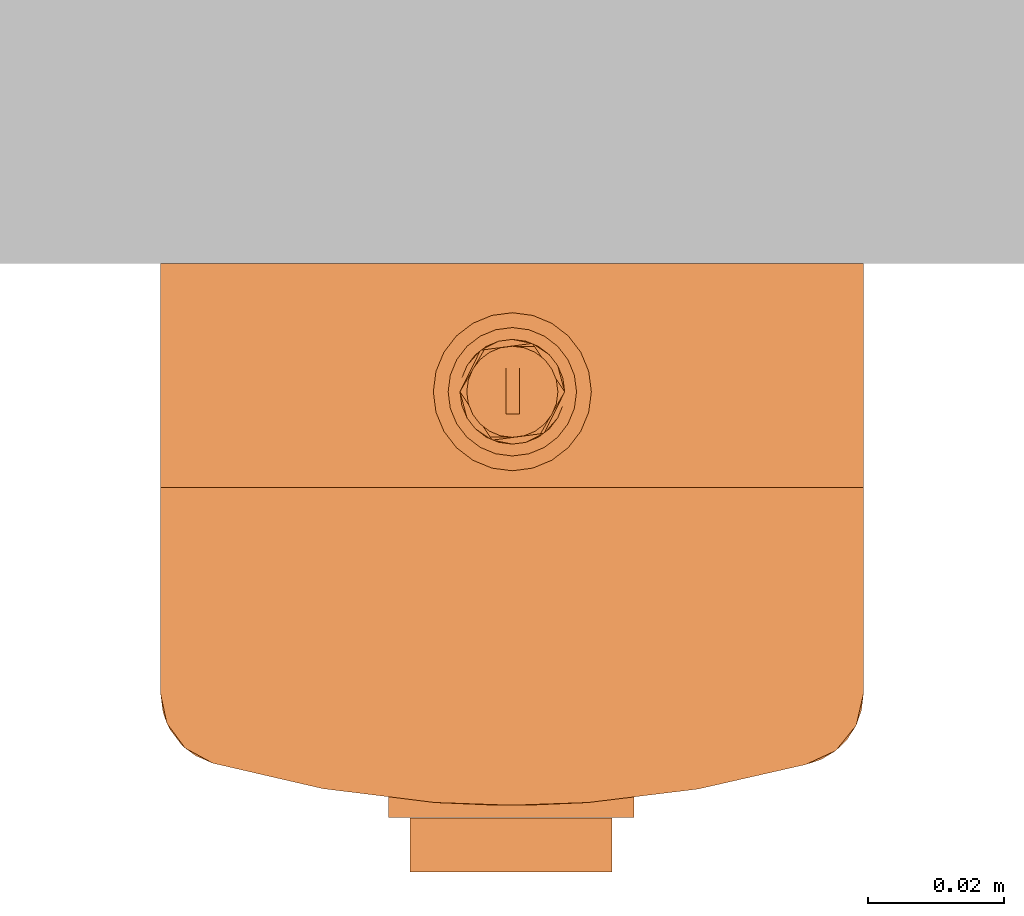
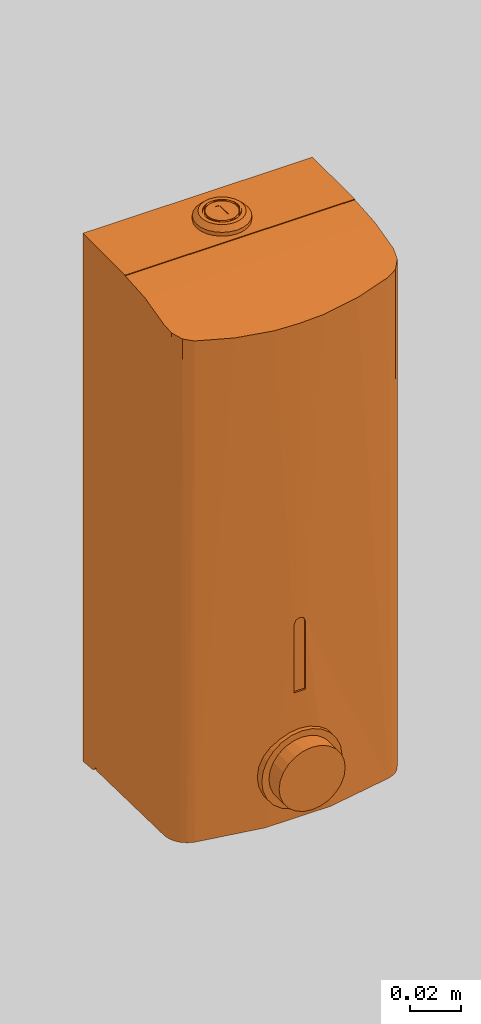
# One storey, part 2 of 2: 1 proxy.
"""IFC2X3 building model written with IfcOpenShell, lengths in millimetres."""

from ifc_helpers import new_model, entity, si_unit, converted_unit, frame, origin, place, context, project, spatial, face_set, surface_model, source, transform, mapped, element, save


model = new_model("IFC2X3")

# Units and contexts
model_context = context("Model", 3, precision=1e-06, world=origin())
plan_context = context("Plan", 3, precision=1e-06, world=origin())
ifc_project = project(units=[si_unit("LENGTHUNIT", "METRE", prefix="MILLI"), si_unit("AREAUNIT", "SQUARE_METRE", prefix="MILLI"), si_unit("VOLUMEUNIT", "CUBIC_METRE", prefix="MILLI"), converted_unit("PLANEANGLEUNIT", "DEGREE", entity("IfcRatioMeasure", 0.01745329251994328), si_unit("PLANEANGLEUNIT", "RADIAN"), dimensions=[0, 0, 0, 0, 0, 0, 0]), si_unit("TIMEUNIT", "SECOND")], contexts=[model_context, plan_context])

# Site, building, storey
site_placement = place(None, origin())
site = spatial("IfcSite", under=ifc_project, at=site_placement, Name="Default", CompositionType="ELEMENT")
building_placement = place(site_placement, origin())
building = spatial("IfcBuilding", under=site, at=building_placement, CompositionType="ELEMENT")
storey_placement = place(building_placement, origin())
storey = spatial("IfcBuildingStorey", under=building, at=storey_placement, Name="Level 1", CompositionType="ELEMENT", Elevation=0.0)

# Proxy
shared_shape = source(origin(), model_context, "Body", "SurfaceModel", [
    surface_model("IfcFaceBasedSurfaceModel", [(56.19353422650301, 54.32887367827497, 8.678371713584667), (56.09341664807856, 55.08934218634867, 8.678371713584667), (55.79988676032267, 55.79798602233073, 8.678371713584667), (55.33294814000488, 56.40651227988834, 8.678371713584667), (54.72442188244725, 56.87345090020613, 8.678371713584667), (54.01577804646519, 57.166980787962, 8.678371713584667), (53.25530953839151, 57.26709836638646, 8.678371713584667), (52.49484103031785, 57.166980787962, 8.678371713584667), (51.78619719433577, 56.87345090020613, 8.678371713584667), (51.17767093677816, 56.4065122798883, 8.678371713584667), (50.71073231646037, 55.7979860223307, 8.678371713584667), (50.4172024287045, 55.08934218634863, 8.678371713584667), (50.31708485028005, 54.32887367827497, 8.678371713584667), (50.4172024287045, 53.56840517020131, 8.678371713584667), (50.71073231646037, 52.85976133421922, 8.678371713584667), (51.17767093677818, 52.2512350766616, 8.678371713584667), (51.78619719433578, 51.78429645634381, 8.678371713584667), (52.49484103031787, 51.49076656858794, 8.678371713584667), (53.25530953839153, 51.39064899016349, 8.678371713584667), (54.01577804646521, 51.49076656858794, 8.678371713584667), (54.72442188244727, 51.78429645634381, 8.678371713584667), (55.3329481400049, 52.2512350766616, 8.678371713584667), (55.79988676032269, 52.85976133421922, 8.678371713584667), (56.09341664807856, 53.56840517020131, 8.678371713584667), (56.19353422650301, 54.328873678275, 0.0), (56.09341664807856, 53.56840517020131, 0.0), (55.79988676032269, 52.85976133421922, 0.0), (55.3329481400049, 52.2512350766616, 0.0), (54.72442188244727, 51.78429645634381, 0.0), (54.01577804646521, 51.49076656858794, 0.0), (53.25530953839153, 51.39064899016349, 0.0), (52.49484103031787, 51.49076656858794, 0.0), (51.78619719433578, 51.78429645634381, 0.0), (51.17767093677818, 52.2512350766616, 0.0), (50.71073231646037, 52.85976133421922, 0.0), (50.4172024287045, 53.56840517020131, 0.0), (50.31708485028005, 54.32887367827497, 0.0), (50.4172024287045, 55.08934218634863, 0.0), (50.71073231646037, 55.7979860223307, 0.0), (51.17767093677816, 56.4065122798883, 0.0), (51.78619719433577, 56.87345090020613, 0.0), (52.49484103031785, 57.166980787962, 0.0), (53.25530953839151, 57.26709836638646, 0.0), (54.01577804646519, 57.166980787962, 0.0), (54.72442188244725, 56.87345090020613, 0.0), (55.33294814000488, 56.40651227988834, 0.0), (55.79988676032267, 55.79798602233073, 0.0), (56.09341664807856, 55.08934218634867, 0.0), (62.80703221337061, 18.91945362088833, 257.6965566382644), (62.48457126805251, 21.36878767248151, 257.6965566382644), (61.53916361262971, 23.65120365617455, 257.6965566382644), (60.03523721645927, 25.61115869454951, 257.6965566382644), (58.07528217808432, 27.11508509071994, 257.6965566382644), (55.79286619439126, 28.06049274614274, 257.6965566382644), (53.34353214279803, 28.38295369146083, 257.6965566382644), (50.89419809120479, 28.06049274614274, 257.6965566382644), (48.61178210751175, 27.11508509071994, 257.6965566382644), (46.65182706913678, 25.61115869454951, 257.6965566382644), (45.14790067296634, 23.65120365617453, 257.6965566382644), (44.20249301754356, 21.36878767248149, 257.6965566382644), (43.88003207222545, 18.91945362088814, 257.6965566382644), (44.2024930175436, 16.47011956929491, 257.6965566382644), (45.14790067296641, 14.18770358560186, 257.6965566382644), (46.65182706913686, 12.22774854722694, 257.6965566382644), (48.61178210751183, 10.72382215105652, 257.6965566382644), (50.89419809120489, 9.778414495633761, 257.6965566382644), (53.34353214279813, 9.45595355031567, 257.6965566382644), (55.79286619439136, 9.778414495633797, 257.6965566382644), (58.0752821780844, 10.72382215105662, 257.6965566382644), (60.03523721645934, 12.22774854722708, 257.6965566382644), (61.53916361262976, 14.18770358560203, 257.6965566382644), (62.48457126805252, 16.47011956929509, 257.6965566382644), (45.62644055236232, 18.91945362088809, 257.6965566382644), (45.88939407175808, 20.91678389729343, 257.6965566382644), (46.66033478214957, 22.77799941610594, 257.6965566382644), (47.88672434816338, 24.37626141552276, 257.6965566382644), (49.48498634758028, 25.60265098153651, 257.6965566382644), (51.34620186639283, 26.37359169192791, 257.6965566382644), (53.34353214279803, 26.63654521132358, 257.6965566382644), (55.34086241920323, 26.37359169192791, 257.6965566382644), (57.20207793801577, 25.60265098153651, 257.6965566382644), (58.80033993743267, 24.37626141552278, 257.6965566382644), (60.02672950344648, 22.77799941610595, 257.6965566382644), (60.79767021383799, 20.91678389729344, 257.6965566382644), (61.06062373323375, 18.91945362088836, 257.6965566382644), (60.79767021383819, 16.92212334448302, 257.6965566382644), (60.02672950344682, 15.06090782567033, 257.6965566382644), (58.80033993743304, 13.46264582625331, 257.6965566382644), (57.20207793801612, 12.2362562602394, 257.6965566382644), (55.34086241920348, 11.46531554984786, 257.6965566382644), (53.34353214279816, 11.20236203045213, 257.6965566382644), (51.34620186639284, 11.46531554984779, 257.6965566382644), (49.48498634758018, 12.23625626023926, 257.6965566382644), (47.88672434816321, 13.46264582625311, 257.6965566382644), (46.66033478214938, 15.06090782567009, 257.6965566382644), (45.88939407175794, 16.92212334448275, 257.6965566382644), (60.06062373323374, 18.91945362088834, 257.6965566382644), (59.8317443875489, 20.65796485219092, 257.6965566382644), (59.16070409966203, 22.27799941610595, 257.6965566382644), (58.09323315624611, 23.66915463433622, 257.6965566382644), (56.70207793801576, 24.73662557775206, 257.6965566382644), (55.08204337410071, 25.40766586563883, 257.6965566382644), (53.34353214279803, 25.63654521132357, 257.6965566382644), (51.60502091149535, 25.40766586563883, 257.6965566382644), (49.98498634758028, 24.73662557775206, 257.6965566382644), (48.59383112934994, 23.66915463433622, 257.6965566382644), (47.52636018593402, 22.27799941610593, 257.6965566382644), (46.85531989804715, 20.6579648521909, 257.6965566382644), (46.62644055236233, 18.91945362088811, 257.6965566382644), (46.85531989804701, 17.18094238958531, 257.6965566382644), (47.52636018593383, 15.56090782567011, 257.6965566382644), (48.59383112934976, 14.16975260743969, 257.6965566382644), (49.98498634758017, 13.10228166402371, 257.6965566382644), (51.60502091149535, 12.43124137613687, 257.6965566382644), (53.34353214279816, 12.20236203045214, 257.6965566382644), (55.08204337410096, 12.43124137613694, 257.6965566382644), (56.7020779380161, 13.10228166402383, 257.6965566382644), (58.09323315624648, 14.16975260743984, 257.6965566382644), (59.16070409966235, 15.56090782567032, 257.6965566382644), (59.83174438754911, 17.18094238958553, 257.6965566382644), (52.25919080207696, 15.16671562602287, 257.6965566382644), (54.24251838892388, 15.16671562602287, 257.6965566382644), (54.24251838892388, 22.16345461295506, 257.6965566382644), (52.25919080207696, 22.16345461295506, 257.6965566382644), (64.99295121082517, 18.91945362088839, 253.6965268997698), (64.59600688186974, 21.93454514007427, 253.6965268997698), (63.4322249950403, 24.74416315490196, 253.6965268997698), (61.58091536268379, 27.15683684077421, 253.6965268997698), (59.16824167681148, 29.00814647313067, 253.6965268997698), (56.35862366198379, 30.17192835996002, 253.6965268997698), (53.34353214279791, 30.5688726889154, 253.6965268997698), (50.32844062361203, 30.17192835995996, 253.6965268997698), (47.51882260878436, 29.00814647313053, 253.6965268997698), (45.10614892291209, 27.15683684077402, 253.6965268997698), (43.25483929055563, 24.74416315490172, 253.6965268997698), (42.09105740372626, 21.93454514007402, 253.6965268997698), (41.6941130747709, 18.91945362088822, 253.6965268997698), (42.09105740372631, 15.90436210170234, 253.6965268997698), (43.25483929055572, 13.09474408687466, 253.6965268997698), (45.10614892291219, 10.68207040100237, 253.6965268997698), (47.51882260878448, 8.830760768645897, 253.6965268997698), (50.32844062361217, 7.666978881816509, 253.6965268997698), (53.34353214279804, 7.270034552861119, 253.6965268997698), (56.35862366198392, 7.666978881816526, 253.6965268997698), (59.16824167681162, 8.830760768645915, 253.6965268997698), (61.58091536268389, 10.68207040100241, 253.6965268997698), (63.43222499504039, 13.0947440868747, 253.6965268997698), (64.59600688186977, 15.90436210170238, 253.6965268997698), (41.69411468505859, 18.91944885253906, 255.5105895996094), (42.0910530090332, 21.93454551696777, 255.5105895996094), (43.25483703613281, 24.74416542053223, 255.5105895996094), (45.10615158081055, 27.15683746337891, 255.5105895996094), (47.51882171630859, 29.00815010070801, 255.5105895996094), (50.32844161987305, 30.17193222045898, 255.5105895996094), (53.34352874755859, 30.56887435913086, 255.5105895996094), (56.35862350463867, 30.17193222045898, 255.5105895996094), (59.16823577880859, 29.00815010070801, 255.5105895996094), (61.58091735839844, 27.15683746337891, 255.5105895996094), (63.43222045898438, 24.74416542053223, 255.5105895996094), (64.59600067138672, 21.93454551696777, 255.5105895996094), (64.99295806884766, 18.91944885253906, 255.5105895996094), (64.59600067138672, 15.90436267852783, 255.5105895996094), (63.43222045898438, 13.09474086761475, 255.5105895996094), (61.58091735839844, 10.6820707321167, 255.5105895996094), (59.16823577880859, 8.830757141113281, 255.5105895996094), (56.35862350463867, 7.666974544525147, 255.5105895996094), (53.34352874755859, 7.27003288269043, 255.5105895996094), (50.32844161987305, 7.666974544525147, 255.5105895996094), (47.51882171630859, 8.830757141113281, 255.5105895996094), (45.10615158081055, 10.6820707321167, 255.5105895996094), (43.25483703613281, 13.09474086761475, 255.5105895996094), (42.0910530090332, 15.90436267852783, 255.5105895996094), (46.62644195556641, 18.91944885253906, 257.2287902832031), (60.06062316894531, 18.91944885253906, 257.2287902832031), (56.70207977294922, 24.73662757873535, 256.6164855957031), (49.9849853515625, 24.73662757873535, 256.6164855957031), (46.62644195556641, 18.91944885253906, 256.6164855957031), (60.06062316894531, 18.91944885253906, 256.6164855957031), (48.64566040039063, 25.04183197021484, 257.1565551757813), (49.48498916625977, 25.60265350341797, 256.6164855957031), (45.62644195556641, 18.91944885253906, 256.6164855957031), (56.29673767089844, 26.04911994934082, 257.1565551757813), (61.06062698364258, 18.91944885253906, 257.2287902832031), (57.20207977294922, 25.60265350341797, 256.6164855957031), (61.06062698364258, 18.91944885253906, 256.6164855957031), (56.70207977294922, 13.10228061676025, 256.6164855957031), (49.9849853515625, 13.10228061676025, 256.6164855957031), (49.48498634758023, 12.23625626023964, 256.6164942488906), (57.20207793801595, 12.2362562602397, 256.6164942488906), (58.04139709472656, 12.79707527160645, 257.1565551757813), (50.39033126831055, 11.78978824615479, 257.1565551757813), (45.62644195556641, 18.91944885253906, 257.2287902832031), (54.24251838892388, 15.16671562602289, 255.2463223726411), (54.24251838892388, 22.16345461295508, 255.2463223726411), (52.25919080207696, 22.16345461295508, 255.2463223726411), (52.25919080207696, 15.16671562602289, 255.2463223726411), (68.4557351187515, 89.68989454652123, 29.90318946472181), (67.94739822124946, 89.68989454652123, 26.0419873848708), (66.45702984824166, 89.68989454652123, 22.44391984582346), (64.08619614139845, 89.68989454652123, 19.35418920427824), (60.99646549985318, 89.68989454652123, 16.98335549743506), (57.39839796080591, 89.68989454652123, 15.49298712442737), (53.53719588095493, 89.68989454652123, 14.98465022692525), (49.67599380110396, 89.68989454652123, 15.49298712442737), (46.0779262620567, 89.68989454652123, 16.98335549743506), (42.98819562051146, 89.68989454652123, 19.35418920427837), (40.61736191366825, 89.68989454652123, 22.44391984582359), (39.12699354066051, 89.68989454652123, 26.04198738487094), (38.61865664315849, 89.68989454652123, 29.90318946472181), (39.12699354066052, 89.68989454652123, 33.7643915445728), (40.61736191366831, 89.68989454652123, 37.36245908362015), (42.98819562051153, 89.68989454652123, 40.45218972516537), (46.07792626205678, 89.68989454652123, 42.82302343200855), (49.67599380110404, 89.68989454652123, 44.31339180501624), (53.53719588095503, 89.68989454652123, 44.82172870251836), (57.39839796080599, 89.68989454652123, 44.31339180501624), (60.99646549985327, 89.68989454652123, 42.82302343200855), (64.0861961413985, 89.68989454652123, 40.45218972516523), (66.45702984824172, 89.68989454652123, 37.36245908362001), (67.94739822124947, 89.68989454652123, 33.7643915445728), (68.4557351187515, 81.74568693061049, 29.90318946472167), (67.94739822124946, 81.74568693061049, 26.0419873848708), (66.45702984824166, 81.74568693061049, 22.44391984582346), (64.08619614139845, 81.74568693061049, 19.35418920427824), (60.99646549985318, 81.74568693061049, 16.98335549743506), (57.39839796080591, 81.74568693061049, 15.49298712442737), (53.53719588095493, 81.74568693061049, 14.98465022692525), (49.67599380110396, 81.74568693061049, 15.49298712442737), (46.0779262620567, 81.74568693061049, 16.98335549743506), (42.98819562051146, 81.74568693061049, 19.35418920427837), (40.61736191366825, 81.74568693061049, 22.44391984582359), (39.12699354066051, 81.74568693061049, 26.04198738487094), (38.61865664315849, 81.74568693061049, 29.90318946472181), (39.12699354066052, 81.74568693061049, 33.7643915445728), (40.61736191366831, 81.74568693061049, 37.36245908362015), (42.98819562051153, 81.74568693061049, 40.45218972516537), (46.07792626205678, 81.74568693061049, 42.82302343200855), (49.67599380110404, 81.74568693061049, 44.31339180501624), (53.53719588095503, 81.74568693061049, 44.82172870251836), (57.39839796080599, 81.74568693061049, 44.31339180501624), (60.99646549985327, 81.74568693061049, 42.82302343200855), (64.0861961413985, 81.74568693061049, 40.45218972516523), (66.45702984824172, 81.74568693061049, 37.36245908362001), (67.94739822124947, 81.74568693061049, 33.7643915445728), (71.62875914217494, 81.64009657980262, 29.64102019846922), (71.01142598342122, 81.64009657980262, 24.95190931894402), (69.20149674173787, 81.64009657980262, 20.58235359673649), (66.32231510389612, 81.64009657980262, 16.83013103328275), (62.57009254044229, 81.64009657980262, 13.95094939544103), (58.20053681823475, 81.64009657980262, 12.14102015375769), (53.51142593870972, 81.64009657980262, 11.52368699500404), (48.82231505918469, 81.64009657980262, 12.14102015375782), (44.45275933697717, 81.64009657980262, 13.95094939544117), (40.70053677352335, 81.64009657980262, 16.83013103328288), (37.82135513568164, 81.64009657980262, 20.58235359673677), (36.01142589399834, 81.64009657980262, 24.95190931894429), (35.39409273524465, 81.64009657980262, 29.64102019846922), (36.01142589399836, 81.64009657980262, 34.33013107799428), (37.8213551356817, 81.64009657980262, 38.6996868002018), (40.70053677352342, 81.64009657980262, 42.45190936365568), (44.45275933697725, 81.64009657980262, 45.3310910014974), (48.82231505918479, 81.64009657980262, 47.14102024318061), (53.51142593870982, 81.64009657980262, 47.75835340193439), (58.20053681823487, 81.64009657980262, 47.14102024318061), (62.57009254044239, 81.64009657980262, 45.33109100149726), (66.3223151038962, 81.64009657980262, 42.45190936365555), (69.20149674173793, 81.64009657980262, 38.6996868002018), (71.01142598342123, 81.64009657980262, 34.33013107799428), (71.62875914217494, 73.48689490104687, 29.64102019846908), (71.01142598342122, 73.48689490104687, 24.95190931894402), (69.20149674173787, 73.48689490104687, 20.58235359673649), (66.32231510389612, 73.48689490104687, 16.83013103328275), (62.57009254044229, 73.48689490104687, 13.95094939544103), (58.20053681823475, 73.48689490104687, 12.14102015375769), (53.51142593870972, 73.48689490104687, 11.52368699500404), (48.82231505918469, 73.48689490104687, 12.14102015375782), (44.45275933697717, 73.48689490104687, 13.95094939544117), (40.70053677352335, 73.48689490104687, 16.83013103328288), (37.82135513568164, 73.48689490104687, 20.58235359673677), (36.01142589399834, 73.48689490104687, 24.95190931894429), (35.39409273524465, 73.48689490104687, 29.64102019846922), (36.01142589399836, 73.48689490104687, 34.33013107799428), (37.8213551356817, 73.48689490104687, 38.6996868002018), (40.70053677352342, 73.48689490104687, 42.45190936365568), (44.45275933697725, 73.48689490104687, 45.3310910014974), (48.82231505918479, 73.48689490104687, 47.14102024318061), (53.51142593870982, 73.48689490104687, 47.75835340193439), (58.20053681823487, 73.48689490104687, 47.14102024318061), (62.57009254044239, 73.48689490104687, 45.33109100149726), (66.3223151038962, 73.48689490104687, 42.45190936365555), (69.20149674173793, 73.48689490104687, 38.6996868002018), (71.01142598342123, 73.48689490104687, 34.33013107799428), (105.1910788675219, 0.0, 253.6659985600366), (105.1910788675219, 33.00335571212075, 253.6659985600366), (1.595272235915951, 33.00335571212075, 253.6659985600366), (1.595272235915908, 0.0, 253.6659985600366), (1.595272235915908, 0.0, 1.795167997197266), (105.1910788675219, 0.0, 1.795167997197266), (1.595272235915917, 7.20416495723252, 2.425450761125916), (1.595272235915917, 7.916036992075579, 2.581965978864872), (1.595272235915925, 8.564310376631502, 2.915133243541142), (1.595272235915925, 9.105970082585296, 3.402845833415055), (1.595272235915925, 9.505075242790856, 4.012742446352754), (1.595272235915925, 9.735143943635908, 4.704354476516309), (1.595272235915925, 10.76205837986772, 4.704354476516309), (1.595272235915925, 10.76205837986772, 3.76529434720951), (1.595272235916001, 63.44673126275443, 4.890275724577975), (1.59527223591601, 63.44673126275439, 248.4592169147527), (1.595272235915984, 48.43562942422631, 252.2146578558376), (1.595272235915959, 33.00335571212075, 253.3466663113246), (1.872683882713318, 65.86053466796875, 4.941804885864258), (2.660540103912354, 68.08727264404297, 246.7198486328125), (2.690452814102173, 68.14847564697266, 4.990639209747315), (4.005938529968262, 70.19124603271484, 5.034313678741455), (5.673401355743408, 71.82247161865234, 245.1022186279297), (7.833298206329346, 73.133544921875, 5.097100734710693), (5.750545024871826, 71.88233184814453, 5.070430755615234), (10.14560317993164, 73.87966918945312, 244.1239318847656), (10.14560317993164, 73.87966918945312, 5.113015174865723), (50.95563888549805, 79.84314727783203, 98.233642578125), (39.10421752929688, 79.2168197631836, 5.227034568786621), (50.95563888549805, 79.84314727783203, 65.6335220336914), (53.82734680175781, 79.18228912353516, 5.22630786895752), (25.9859504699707, 77.4832763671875, 242.251953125), (51.66852188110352, 79.85269927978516, 99.98186492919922), (42.16366958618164, 79.46317291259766, 241.1334228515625), (53.45414352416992, 79.8626937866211, 241.0263061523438), (53.42743682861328, 79.86267852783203, 100.7334899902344), (53.45564270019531, 79.8626937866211, 65.6335220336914), (55.95564270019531, 79.84309387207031, 98.233642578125), (97.48373413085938, 73.67473602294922, 5.108654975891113), (68.55047607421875, 79.1477279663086, 5.225508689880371), (55.95564270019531, 79.84309387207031, 65.6335220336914), (81.2930679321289, 77.4181137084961, 242.2875671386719), (64.74461364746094, 79.46317291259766, 241.1334228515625), (55.208740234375, 79.8530502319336, 100.0159454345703), (97.48373413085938, 73.67473602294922, 244.2242126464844), (101.5739212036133, 71.43988037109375, 245.2772064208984), (102.1530151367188, 70.89127349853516, 5.049211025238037), (99.99913024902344, 72.58623504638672, 5.085400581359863), (103.8024749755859, 68.7023696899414, 5.002484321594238), (105.1910705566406, 63.44672775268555, 248.4592742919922), (105.1910705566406, 63.44672775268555, 4.890281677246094), (104.8380813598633, 66.16473388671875, 4.948345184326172), (104.2570648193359, 67.80609130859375, 246.8336486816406), (105.1910788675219, 7.204164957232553, 2.425450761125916), (105.1910788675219, 7.916036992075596, 2.581965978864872), (105.1910788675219, 8.564310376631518, 2.915133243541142), (105.1910788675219, 9.105970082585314, 3.402845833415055), (105.1910788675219, 9.505075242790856, 4.012742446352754), (105.1910788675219, 9.735143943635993, 4.704354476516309), (105.1910788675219, 10.76205837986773, 4.704354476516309), (105.1910788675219, 10.76205837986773, 3.76529434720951), (105.1910788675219, 48.43562942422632, 252.2146578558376), (105.1910788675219, 33.00335571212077, 253.3466663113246), (55.9556383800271, 79.04539778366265, 65.63351364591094), (50.9556383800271, 79.04539778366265, 65.63351364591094), (50.95563838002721, 79.04539778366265, 98.23365843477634), (51.04082381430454, 79.04539778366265, 98.88070604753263), (51.29057487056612, 79.04539778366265, 99.48365843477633), (51.68787142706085, 79.04539778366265, 100.0014253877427), (52.20563838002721, 79.04539778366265, 100.3987219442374), (52.80859076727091, 79.04539778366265, 100.648473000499), (53.4556383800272, 79.04539778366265, 100.7336584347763), (54.10268599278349, 79.04539778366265, 100.648473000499), (54.70563838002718, 79.04539778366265, 100.3987219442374), (55.22340533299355, 79.04539778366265, 100.0014253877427), (55.62070188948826, 79.04539778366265, 99.48365843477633), (55.87045294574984, 79.04539778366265, 98.88070604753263), (55.95563838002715, 79.04539778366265, 98.23365843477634)], [face_set([[[0, 1, 2, 3, 4, 5, 6, 7, 8, 9, 10, 11, 12, 13, 14, 15, 16, 17, 18, 19, 20, 21, 22, 23]], [[24, 25, 26, 27, 28, 29, 30, 31, 32, 33, 34, 35, 36, 37, 38, 39, 40, 41, 42, 43, 44, 45, 46, 47]], [[11, 37, 36, 12]], [[10, 38, 37, 11]], [[8, 40, 39, 9]], [[9, 39, 38, 10]], [[7, 41, 40, 8]], [[41, 7, 6, 42]], [[5, 43, 42, 6]], [[4, 44, 43, 5]], [[2, 46, 45, 3]], [[3, 45, 44, 4]], [[1, 47, 46, 2]], [[47, 1, 0, 24]], [[23, 25, 24, 0]], [[22, 26, 25, 23]], [[20, 28, 27, 21]], [[21, 27, 26, 22]], [[19, 29, 28, 20]], [[29, 19, 18, 30]], [[17, 31, 30, 18]], [[16, 32, 31, 17]], [[14, 34, 33, 15]], [[15, 33, 32, 16]], [[13, 35, 34, 14]], [[35, 13, 12, 36]]]), face_set([[[48, 49, 50, 51, 52, 53, 54, 55, 56, 57, 58, 59, 60, 61, 62, 63, 64, 65, 66, 67, 68, 69, 70, 71], [72, 73, 74, 75, 76, 77, 78, 79, 80, 81, 82, 83, 84, 85, 86, 87, 88, 89, 90, 91, 92, 93, 94, 95]], [[96, 97, 98, 99, 100, 101, 102, 103, 104, 105, 106, 107, 108, 109, 110, 111, 112, 113, 114, 115, 116, 117, 118, 119], [120, 121, 122, 123]], [[124, 125, 126, 127, 128, 129, 130, 131, 132, 133, 134, 135, 136, 137, 138, 139, 140, 141, 142, 143, 144, 145, 146, 147]], [[135, 136, 148, 149]], [[134, 135, 149, 150]], [[132, 133, 151, 152]], [[133, 134, 150, 151]], [[131, 132, 152, 153]], [[153, 154, 130, 131]], [[128, 129, 155, 156]], [[127, 128, 156, 157]], [[125, 126, 158, 159]], [[126, 127, 157, 158]], [[124, 125, 159, 160]], [[154, 155, 129, 130]], [[147, 124, 160, 161]], [[146, 147, 161, 162]], [[144, 145, 163, 164]], [[145, 146, 162, 163]], [[143, 144, 164, 165]], [[165, 166, 142, 143]], [[140, 141, 167, 168]], [[139, 140, 168, 169]], [[137, 138, 170, 171]], [[138, 139, 169, 170]], [[136, 137, 171, 148]], [[166, 167, 141, 142]], [[59, 148, 60]], [[58, 149, 59]], [[151, 57, 56]], [[58, 57, 150]], [[152, 56, 55]], [[58, 150, 149]], [[149, 148, 59]], [[153, 54, 154]], [[153, 152, 55]], [[151, 56, 152]], [[151, 150, 57]], [[54, 153, 55]], [[52, 155, 53]], [[51, 156, 52]], [[158, 50, 49]], [[51, 50, 157]], [[159, 49, 48]], [[52, 156, 155]], [[155, 154, 53]], [[159, 158, 49]], [[157, 50, 158]], [[157, 156, 51]], [[160, 159, 48]], [[53, 154, 54]], [[105, 172, 106]], [[172, 104, 105]], [[104, 172, 103]], [[97, 173, 98]], [[173, 174, 175, 172]], [[172, 175, 176]], [[172, 108, 107]], [[101, 173, 100]], [[96, 173, 97]], [[173, 99, 98]], [[100, 173, 99]], [[106, 172, 107]], [[103, 172, 102]], [[172, 173, 102]], [[173, 101, 102]], [[173, 177, 174]], [[75, 76, 178]], [[179, 180, 178]], [[178, 76, 77]], [[178, 77, 181]], [[178, 74, 75]], [[178, 180, 72]], [[82, 182, 181]], [[181, 183, 179]], [[178, 73, 72]], [[83, 182, 82]], [[83, 84, 182]], [[82, 181, 81]], [[183, 182, 184]], [[77, 78, 181]], [[178, 181, 179]], [[181, 79, 80]], [[181, 80, 81]], [[73, 74, 178]], [[183, 181, 182]], [[79, 181, 78]], [[71, 160, 48]], [[70, 161, 71]], [[163, 69, 68]], [[70, 69, 162]], [[164, 68, 67]], [[70, 162, 161]], [[161, 160, 71]], [[165, 66, 166]], [[165, 164, 67]], [[163, 68, 164]], [[163, 162, 69]], [[66, 165, 67]], [[64, 167, 65]], [[63, 168, 64]], [[170, 62, 61]], [[63, 62, 169]], [[171, 61, 60]], [[64, 168, 167]], [[167, 166, 65]], [[171, 170, 61]], [[169, 62, 170]], [[169, 168, 63]], [[148, 171, 60]], [[65, 166, 66]], [[117, 173, 118]], [[173, 116, 117]], [[116, 173, 115]], [[118, 173, 119]], [[109, 172, 110]], [[185, 177, 173]], [[172, 186, 185, 173]], [[113, 172, 112]], [[108, 172, 109]], [[172, 111, 110]], [[112, 172, 111]], [[173, 96, 119]], [[115, 173, 114]], [[173, 172, 114]], [[114, 172, 113]], [[172, 176, 186]], [[184, 183, 179, 180, 187, 188], [177, 174, 175, 176, 186, 185]], [[87, 88, 189]], [[188, 184, 189]], [[189, 88, 89]], [[189, 89, 190]], [[189, 86, 87]], [[189, 184, 84]], [[94, 191, 190]], [[190, 187, 188]], [[189, 85, 84]], [[95, 191, 94]], [[95, 72, 191]], [[94, 190, 93]], [[187, 191, 180]], [[89, 90, 190]], [[189, 190, 188]], [[190, 91, 92]], [[190, 92, 93]], [[85, 86, 189]], [[187, 190, 191]], [[91, 190, 90]], [[192, 193, 194, 195]], [[195, 120, 121, 192]], [[194, 123, 120, 195]], [[193, 194, 123, 122]], [[192, 193, 122, 121]]]), face_set([[[196, 197, 198, 199, 200, 201, 202, 203, 204, 205, 206, 207, 208, 209, 210, 211, 212, 213, 214, 215, 216, 217, 218, 219]], [[220, 221, 222, 223, 224, 225, 226, 227, 228, 229, 230, 231, 232, 233, 234, 235, 236, 237, 238, 239, 240, 241, 242, 243]], [[207, 231, 232, 208]], [[206, 230, 231, 207]], [[204, 228, 229, 205]], [[205, 229, 230, 206]], [[203, 227, 228, 204]], [[227, 203, 202, 226]], [[201, 225, 226, 202]], [[200, 224, 225, 201]], [[198, 222, 223, 199]], [[199, 223, 224, 200]], [[197, 221, 222, 198]], [[221, 197, 196, 220]], [[219, 243, 220, 196]], [[218, 242, 243, 219]], [[216, 240, 241, 217]], [[217, 241, 242, 218]], [[215, 239, 240, 216]], [[239, 215, 214, 238]], [[213, 237, 238, 214]], [[212, 236, 237, 213]], [[210, 234, 235, 211]], [[211, 235, 236, 212]], [[209, 233, 234, 210]], [[233, 209, 208, 232]]]), face_set([[[244, 245, 246, 247, 248, 249, 250, 251, 252, 253, 254, 255, 256, 257, 258, 259, 260, 261, 262, 263, 264, 265, 266, 267]], [[268, 269, 270, 271, 272, 273, 274, 275, 276, 277, 278, 279, 280, 281, 282, 283, 284, 285, 286, 287, 288, 289, 290, 291]], [[255, 279, 280, 256]], [[254, 278, 279, 255]], [[252, 276, 277, 253]], [[253, 277, 278, 254]], [[251, 275, 276, 252]], [[275, 251, 250, 274]], [[249, 273, 274, 250]], [[248, 272, 273, 249]], [[246, 270, 271, 247]], [[247, 271, 272, 248]], [[245, 269, 270, 246]], [[269, 245, 244, 268]], [[267, 291, 268, 244]], [[266, 290, 291, 267]], [[264, 288, 289, 265]], [[265, 289, 290, 266]], [[263, 287, 288, 264]], [[287, 263, 262, 286]], [[261, 285, 286, 262]], [[260, 284, 285, 261]], [[258, 282, 283, 259]], [[259, 283, 284, 260]], [[257, 281, 282, 258]], [[281, 257, 256, 280]]]), face_set([[[292, 293, 294, 295]], [[295, 296, 297, 292]], [[295, 296, 298, 299, 300, 301, 302, 303, 304, 305, 306, 307, 308, 309, 294]], [[307, 310, 306]], [[307, 311, 310]], [[312, 310, 311]], [[313, 312, 311]], [[314, 315, 316]], [[314, 316, 313]], [[314, 317, 315]], [[318, 315, 317]], [[311, 314, 313]], [[319, 320, 318]], [[320, 319, 321]], [[320, 321, 322]], [[323, 319, 318]], [[323, 318, 317]], [[324, 325, 326]], [[319, 323, 325]], [[327, 324, 326]], [[319, 325, 324]], [[328, 322, 321]], [[329, 330, 331]], [[322, 328, 332]], [[332, 329, 331]], [[332, 331, 322]], [[333, 330, 329]], [[334, 335, 326]], [[335, 327, 326]], [[329, 335, 334]], [[333, 329, 334]], [[333, 336, 330]], [[337, 338, 339]], [[330, 336, 339]], [[337, 339, 336]], [[337, 340, 338]], [[341, 342, 343]], [[340, 344, 343]], [[341, 343, 344]], [[337, 344, 340]], [[297, 345, 346, 347, 348, 349, 350, 351, 352, 342, 341, 353, 354, 293, 292]], [[333, 334, 323]], [[333, 337, 336]], [[333, 323, 344]], [[323, 334, 325]], [[317, 314, 311]], [[311, 323, 317]], [[337, 333, 344]], [[341, 344, 307]], [[308, 353, 341, 307]], [[309, 354, 353, 308]], [[307, 344, 311]], [[323, 311, 344]], [[309, 294, 293, 354]], [[334, 326, 325]], [[299, 346, 345, 298]], [[300, 347, 346, 299]], [[347, 300, 301, 348]], [[302, 349, 348, 301]], [[303, 350, 349, 302]], [[303, 350, 351, 304]], [[304, 351, 352, 305]], [[305, 306, 310, 313, 315, 318, 331, 330, 338, 343, 342, 352]], [[345, 297, 296, 298]], [[355, 356, 357, 358, 359, 360, 361, 362, 363, 364, 365, 366, 367, 368, 369]], [[369, 355, 332, 329]], [[329, 369, 368]], [[368, 367, 329]], [[366, 335, 367]], [[329, 367, 335]], [[335, 364, 327]], [[364, 335, 365]], [[366, 365, 335]], [[327, 364, 363]], [[324, 362, 361]], [[361, 360, 324]], [[359, 324, 360]], [[327, 362, 324]], [[358, 357, 319]], [[319, 324, 359]], [[358, 319, 359]], [[362, 327, 363]], [[356, 321, 319, 357]], [[355, 332, 328, 321, 356]]])]),
])
proxy_placement = place(storey_placement, frame((-7168.149432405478, -8542.997041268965, 940.4412566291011), z_axis=(0.0, 0.0, 1.0), x_axis=(-1.0, 0.0, 0.0)))
element("IfcBuildingElementProxy", 1, at=proxy_placement, inside=storey, Name="510580-FR:Type 1:Type 1", ObjectType="Type 1", CompositionType="ELEMENT", context=model_context, shape_type="MappedRepresentation", body=[
    mapped(shared_shape, transform((0.0, 0.0, 0.0), scale=1.0)),
])

save(model, "model.ifc")
